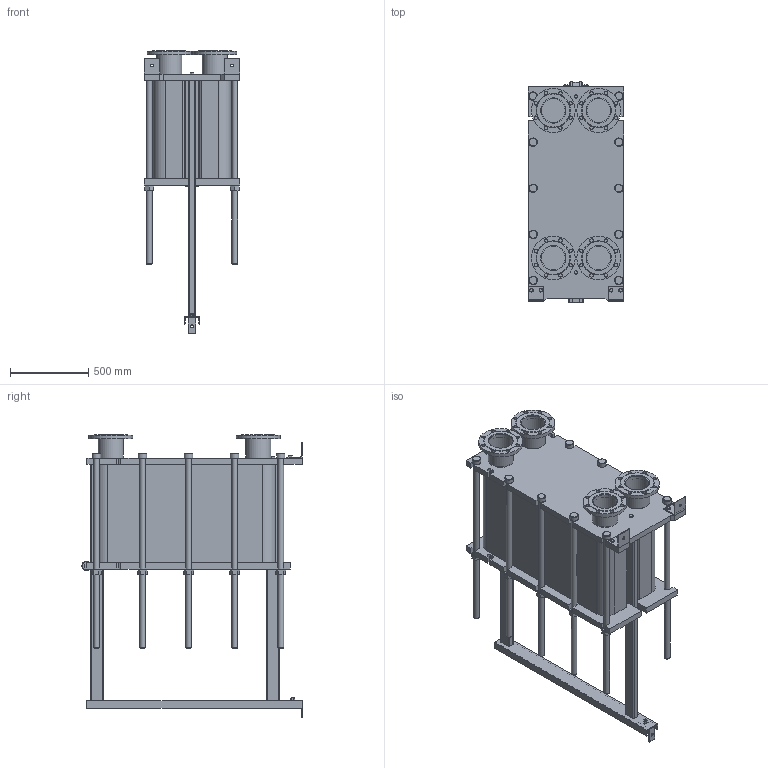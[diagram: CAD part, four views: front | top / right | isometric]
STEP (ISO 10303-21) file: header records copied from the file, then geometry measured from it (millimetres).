
FILE_DESCRIPTION(/* description */ (''),/* implementation_level */ '2;1');
FILE_NAME(/* name */ 'C:\Users\zhuro\Desktop\ENCO\TO\ЭН-041\ЭН-0,5-041-182-1.stp',/* time_stamp */ '2022-06-06T11:05:16+03:00',/* author */ ('zhuro'),/* organization */ (''),/* preprocessor_version */ 'ST-DEVELOPER v18.1',/* originating_system */ 'Autodesk Inventor 2022',/* authorisation */ '');
FILE_SCHEMA (('AUTOMOTIVE_DESIGN { 1 0 10303 214 3 1 1 }'));
Length unit declared in the file: millimetre
Products named in the file (1): ЭН-0,5-041-182-1
Bounding box: 610 x 1406.5 x 1805 mm (x, y, z)
Volume: 439389869.1 mm3; surface area: 10832543.9 mm2
Topology: 52 solids, 52 shells, 711 faces, 1696 edges, 1094 vertices
Faces by surface type: plane 487, cylinder 177, cone 41, torus 6
Full cylindrical faces by diameter (mm): 8 x4, 10 x2, 16 x8, 18 x3, 22 x32, 36 x24, 50 x1, 54 x10, 60 x12, 151 x4, 161 x8, 280 x4
Entity records: 22667 total; most frequent: CARTESIAN_POINT 5230, DIRECTION 3644, ORIENTED_EDGE 3392, EDGE_CURVE 1696, AXIS2_PLACEMENT_3D 1272, LINE 1100, VECTOR 1100, VERTEX_POINT 1094
